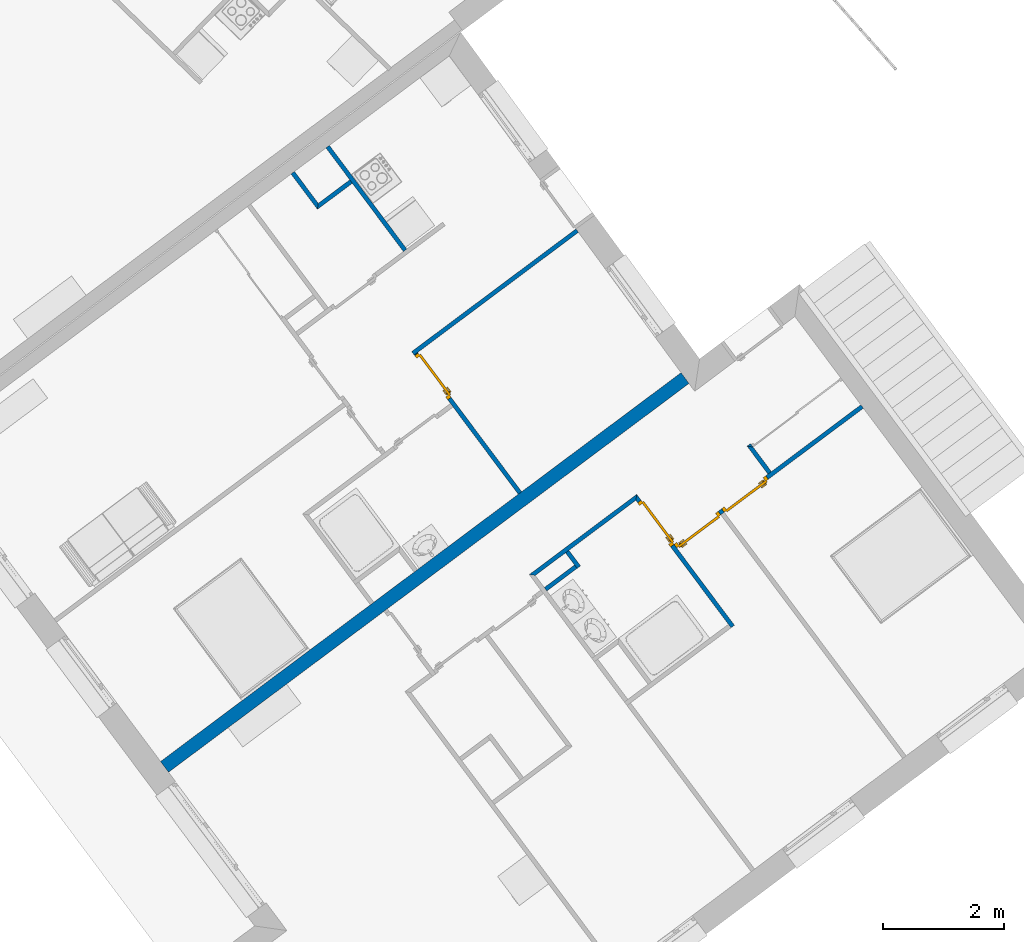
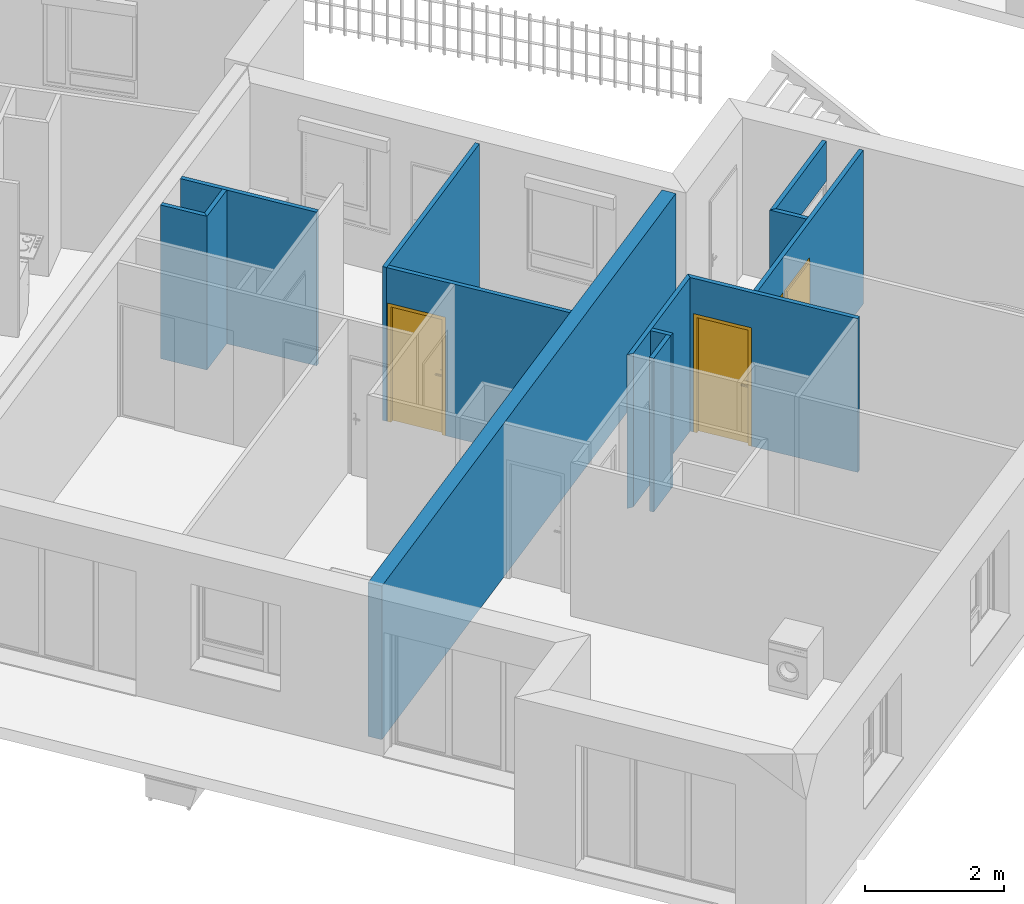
# One storey, part 10 of 195: 13 walls, 4 doors, 5 openings.
"""IFC2X3 building model written with IfcOpenShell, lengths in metres."""

from ifc_helpers import new_model, entity, si_unit, converted_unit, derived_unit, money_unit, direction, frame, origin_with_axes, origin_2d_with_axis, place, context, subcontext, project, spatial, polyline, rectangle, outline, extrude, faceted_brep, source, transform, mapped, material, layer, layer_set, layer_usage, type_object, element, fill, save


model = new_model("IFC2X3")

# Units and contexts
model_context = context("Model", 3, precision=1e-05, world=origin_with_axes(), true_north=direction((0.0, 1.0)))
body_context = subcontext(model_context, "Body", "Model", "MODEL_VIEW")
ifc_project = project(units=[si_unit("LENGTHUNIT", "METRE"), si_unit("AREAUNIT", "SQUARE_METRE"), si_unit("VOLUMEUNIT", "CUBIC_METRE"), converted_unit("PLANEANGLEUNIT", "DEGREE", entity("IfcPlaneAngleMeasure", 0.0174532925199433), si_unit("PLANEANGLEUNIT", "RADIAN"), dimensions=[0, 0, 0, 0, 0, 0, 0]), money_unit("CHF"), converted_unit("TIMEUNIT", "Year", entity("IfcTimeMeasure", 31557600.0), si_unit("TIMEUNIT", "SECOND"), dimensions=[0, 0, 1, 0, 0, 0, 0]), si_unit("MASSUNIT", "GRAM", prefix="KILO"), si_unit("THERMODYNAMICTEMPERATUREUNIT", "DEGREE_CELSIUS"), si_unit("LUMINOUSINTENSITYUNIT", "LUMEN"), si_unit("ENERGYUNIT", "JOULE", prefix="MEGA"), derived_unit("THERMALCONDUCTANCEUNIT", [(si_unit("POWERUNIT", "WATT"), 1), (si_unit("LENGTHUNIT", "METRE"), -1), (si_unit("THERMODYNAMICTEMPERATUREUNIT", "KELVIN"), -1)]), derived_unit("SPECIFICHEATCAPACITYUNIT", [(si_unit("ENERGYUNIT", "JOULE"), 1), (si_unit("MASSUNIT", "GRAM", prefix="KILO"), -1), (si_unit("THERMODYNAMICTEMPERATUREUNIT", "KELVIN"), -1)]), derived_unit("MASSDENSITYUNIT", [(si_unit("MASSUNIT", "GRAM", prefix="KILO"), 1), (si_unit("VOLUMEUNIT", "CUBIC_METRE"), -1)])], contexts=[model_context])

# Site, building, storey
site_placement = place(None, origin_with_axes())
site = spatial("IfcSite", under=ifc_project, at=site_placement, Name="Site", CompositionType="ELEMENT")
building_placement = place(site_placement, origin_with_axes())
building = spatial("IfcBuilding", under=site, at=building_placement, Name="Bâtiment", CompositionType="ELEMENT")
storey_placement = place(building_placement, origin_with_axes())
storey = spatial("IfcBuildingStorey", under=building, at=storey_placement, Name="rdc", CompositionType="ELEMENT", Elevation=0.0)

# Walls
ifc_material_1 = material(Name="Hachure solide 268963992")
ifc_layer_1 = layer(ifc_material_1, 0.07, ventilated="UNKNOWN")
ifc_layer_set_1 = layer_set([ifc_layer_1], Name="Cloison 70 0826278243")
ifc_layer_usage_1 = layer_usage(ifc_layer_set_1, "AXIS2", "NEGATIVE", 0.0)
wall_type_1 = type_object("IfcWallType", Name="Cloison 70 0826278243 70", PredefinedType="NOTDEFINED")
wall_1_placement = place(storey_placement, frame((9534.76554951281, -1072.023628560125, 57.7), z_axis=(0.0, 0.0, 1.0), x_axis=(0.5984471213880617, -0.8011623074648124, 0.0)))
element("IfcWallStandardCase", 1, at=wall_1_placement, inside=storey, type_object=wall_type_1, material=ifc_layer_usage_1, Name="Mur-149", context=body_context, shape_type="SweptSolid", body=[
    extrude(outline(polyline([(0.0, -0.06999999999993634), (0.7279079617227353, -0.07000000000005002), (0.6579079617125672, 0.0), (0.0, 0.0), (0.0, -0.06999999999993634)])), origin_with_axes(), (0.0, 0.0, 1.0), 2.7),
])
ifc_layer_usage_2 = layer_usage(ifc_layer_set_1, "AXIS2", "NEGATIVE", 0.0)
wall_2_placement = place(storey_placement, frame((9539.757479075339, -1072.80087057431, 57.7), z_axis=(0.0, 0.0, 1.0), x_axis=(-0.8011623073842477, -0.5984471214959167, 0.0)))
element("IfcWallStandardCase", 2, at=wall_2_placement, inside=storey, type_object=wall_type_1, material=ifc_layer_usage_2, Name="Mur-149", context=body_context, shape_type="SweptSolid", body=[
    extrude(outline(polyline([(0.3793022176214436, -0.06999999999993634), (3.763144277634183, -0.06999999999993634), (3.763144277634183, 0.0), (0.3800199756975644, 0.0), (0.3793022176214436, -0.06999999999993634)])), origin_with_axes(), (0.0, 0.0, 1.0), 2.7),
])
ifc_layer_usage_3 = layer_usage(ifc_layer_set_1, "AXIS2", "NEGATIVE", 0.0)
wall_3_placement = place(storey_placement, frame((9535.341654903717, -1071.593293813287, 57.7), z_axis=(0.0, 0.0, 1.0), x_axis=(0.5984464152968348, -0.8011628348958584, 0.0)))
element("IfcWallStandardCase", 3, at=wall_3_placement, inside=storey, type_object=wall_type_1, material=ifc_layer_usage_3, Name="Mur-149", context=body_context, shape_type="SweptSolid", body=[
    extrude(outline(polyline([(0.0, -0.07000000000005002), (2.135506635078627, -0.07000000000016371), (2.135506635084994, 0.0), (0.0, 0.0), (0.0, -0.07000000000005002)])), origin_with_axes(), (0.0, 0.0, 1.0), 2.7),
])

# Wall, opening
ifc_layer_usage_4 = layer_usage(ifc_layer_set_1, "AXIS2", "NEGATIVE", 0.0)
wall_4_placement = place(storey_placement, frame((9542.236059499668, -1076.557805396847, 57.7), z_axis=(0.0, 0.0, 1.0), x_axis=(0.8011628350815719, 0.5984464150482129, 0.0)))
wall_4 = element("IfcWallStandardCase", 4, at=wall_4_placement, inside=storey, type_object=wall_type_1, material=ifc_layer_usage_4, Name="Mur-149", context=body_context, shape_type="SweptSolid", body=[
    extrude(outline(polyline([(0.0700000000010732, -0.07000000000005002), (1.913437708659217, -0.07000000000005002), (1.913437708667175, 0.0), (0.0, 0.0), (0.0700000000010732, -0.07000000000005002)])), origin_with_axes(), (0.0, 0.0, 1.0), 2.7),
])
opening_1_placement = place(wall_4_placement, frame((0.9917188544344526, 0.0, 0.0), z_axis=(0.0, 0.0, 1.0), x_axis=(1.0, 0.0, 0.0)))
element("IfcOpeningElement", 5, at=opening_1_placement, cuts=wall_4, Name="Por-344", context=body_context, shape_type="SweptSolid", body=[
    extrude(rectangle(XDim=1.843437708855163, YDim=2.0, at=origin_2d_with_axis()), frame((0.0, -0.07000000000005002, 1.0), z_axis=(0.0, 1.0, 0.0), x_axis=(1.0, 0.0, 0.0)), (0.0, 0.0, -1.0), 0.07),
    extrude(rectangle(XDim=1.843437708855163, YDim=2.0, at=origin_2d_with_axis()), frame((0.0, -0.07000000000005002, 1.0), z_axis=(0.0, -1.0, 0.0), x_axis=(1.0, 0.0, 0.0)), (0.0, 0.0, -1.0), 0.07),
])

# Wall, openings, doors
ifc_layer_usage_5 = layer_usage(ifc_layer_set_1, "AXIS2", "NEGATIVE", 0.0)
wall_5_placement = place(storey_placement, frame((9540.97390720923, -1078.220409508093, 57.7), z_axis=(0.0, 0.0, 1.0), x_axis=(0.8011628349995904, 0.5984464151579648, 0.0)))
wall_5 = element("IfcWallStandardCase", 6, at=wall_5_placement, inside=storey, type_object=wall_type_1, material=ifc_layer_usage_5, Name="Mur-149", context=body_context, shape_type="SweptSolid", body=[
    extrude(outline(polyline([(0.06999999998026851, -0.07000000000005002), (3.919606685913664, -0.07000000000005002), (3.919606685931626, 0.0), (0.06999999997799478, 0.0), (0.06999999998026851, -0.07000000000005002)])), origin_with_axes(), (0.0, 0.0, 1.0), 2.7),
])
opening_2_placement = place(wall_5_placement, frame((0.5249999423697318, 0.0, 0.0), z_axis=(0.0, 0.0, 1.0), x_axis=(1.0, 0.0, 0.0)))
opening_2 = element("IfcOpeningElement", 7, at=opening_2_placement, cuts=wall_5, Name="Por-308", context=body_context, shape_type="SweptSolid", body=[
    extrude(rectangle(XDim=0.9099999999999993, YDim=2.079999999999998, at=origin_2d_with_axis()), frame((0.0, 0.07000000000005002, 1.039999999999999), z_axis=(0.0, 1.0, 0.0), x_axis=(1.0, 0.0, 0.0)), (0.0, 0.0, -1.0), 0.14),
])
opening_3_placement = place(wall_5_placement, frame((1.504999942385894, 0.0, 0.0), z_axis=(0.0, 0.0, 1.0), x_axis=(1.0, 0.0, 0.0)))
opening_3 = element("IfcOpeningElement", 8, at=opening_3_placement, cuts=wall_5, Name="Por-308", context=body_context, shape_type="SweptSolid", body=[
    extrude(rectangle(XDim=0.9099999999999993, YDim=2.079999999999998, at=origin_2d_with_axis()), frame((0.0, 0.07000000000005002, 1.039999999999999), z_axis=(0.0, -1.0, 0.0), x_axis=(-1.0, 0.0, 0.0)), (0.0, 0.0, 1.0), 0.14),
])
door_style = type_object("IfcDoorStyle", Name="Porte_1v", ConstructionType="NOTDEFINED", OperationType="NOTDEFINED", ParameterTakesPrecedence=False, Sizeable=False)
shared_shape_1 = source(origin_with_axes(), body_context, "Body", "Brep", [
    faceted_brep([(0.455, 0.0, 0.0), (0.415, 0.0, 0.0), (0.415, 0.0, 2.04), (-0.415, 0.0, 2.04), (-0.415, 0.0, 0.0), (-0.455, 0.0, 0.0), (-0.455, 0.0, 2.08), (0.455, 0.0, 2.08), (0.455, -0.07, 0.0), (0.4, -0.07, 0.0), (0.4, -0.015, 0.0), (0.415, -0.015, 0.0), (0.415, -0.015, 2.04), (-0.415, -0.015, 2.04), (-0.415, -0.015, 0.0), (-0.4, -0.015, 0.0), (-0.4, -0.07, 0.0), (-0.455, -0.07, 0.0), (-0.455, -0.07, 2.08), (0.455, -0.07, 2.08), (-0.4, -0.07, 2.025), (0.4, -0.07, 2.025), (0.4, -0.015, 2.025), (-0.4, -0.015, 2.025)], [[[0, 1, 2, 3, 4, 5, 6, 7]], [[0, 8, 9, 10, 11, 1]], [[1, 11, 12, 2]], [[2, 12, 13, 3]], [[3, 13, 14, 4]], [[5, 4, 14, 15, 16, 17]], [[18, 6, 5, 17]], [[19, 7, 6, 18]], [[8, 0, 7, 19]], [[9, 8, 19, 18, 17, 16, 20, 21]], [[10, 9, 21, 22]], [[11, 10, 22, 23, 15, 14, 13, 12]], [[23, 20, 16, 15]], [[22, 21, 20, 23]]]),
    faceted_brep([(-0.35, -0.015, 0.9), (-0.39, -0.015, 0.9), (-0.39, -0.015, 1.1), (-0.35, -0.015, 1.1), (-0.35, -0.025, 0.9), (-0.39, -0.025, 0.9), (-0.39, -0.025, 1.1), (-0.35, -0.025, 1.1)], [[[0, 1, 2, 3]], [[1, 0, 4, 5]], [[2, 1, 5, 6]], [[3, 2, 6, 7]], [[0, 3, 7, 4]], [[5, 4, 7, 6]]]),
    faceted_brep([(-0.28, -0.025, 1.0), (-0.38, -0.025, 1.0), (-0.38, -0.025, 1.02), (-0.28, -0.025, 1.02), (-0.28, -0.045, 1.0), (-0.38, -0.045, 1.0), (-0.38, -0.045, 1.02), (-0.28, -0.045, 1.02)], [[[0, 1, 2, 3]], [[1, 0, 4, 5]], [[2, 1, 5, 6]], [[3, 2, 6, 7]], [[0, 3, 7, 4]], [[5, 4, 7, 6]]]),
    faceted_brep([(-0.35, 0.035, 0.9), (-0.39, 0.035, 0.9), (-0.39, 0.035, 1.1), (-0.35, 0.035, 1.1), (-0.35, 0.025, 0.9), (-0.39, 0.025, 0.9), (-0.39, 0.025, 1.1), (-0.35, 0.025, 1.1)], [[[0, 1, 2, 3]], [[1, 0, 4, 5]], [[2, 1, 5, 6]], [[3, 2, 6, 7]], [[0, 3, 7, 4]], [[5, 4, 7, 6]]]),
    faceted_brep([(-0.28, 0.05500000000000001, 1.0), (-0.38, 0.05500000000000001, 1.0), (-0.38, 0.05500000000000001, 1.02), (-0.28, 0.05500000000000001, 1.02), (-0.28, 0.035, 1.0), (-0.38, 0.035, 1.0), (-0.38, 0.035, 1.02), (-0.28, 0.035, 1.02)], [[[0, 1, 2, 3]], [[1, 0, 4, 5]], [[2, 1, 5, 6]], [[3, 2, 6, 7]], [[0, 3, 7, 4]], [[5, 4, 7, 6]]]),
    faceted_brep([(-0.415, 0.025, 0.0), (0.415, 0.025, 0.0), (0.415, -0.015, 0.0), (-0.415, -0.015, 0.0), (-0.415, 0.025, 2.04), (0.415, 0.025, 2.04), (0.415, -0.015, 2.04), (-0.415, -0.015, 2.04)], [[[0, 1, 2, 3]], [[0, 4, 5, 1]], [[1, 5, 6, 2]], [[3, 2, 6, 7]], [[4, 0, 3, 7]], [[5, 4, 7, 6]]]),
])
door_1_placement = place(opening_3_placement, frame((0.4150000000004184, 0.0, 0.0), z_axis=(0.0, 0.0, 1.0), x_axis=(-1.0, 0.0, 0.0)))
door_1 = element("IfcDoor", 9, at=door_1_placement, inside=storey, type_object=door_style, Name="Por-308", OverallHeight=2.04, OverallWidth=0.83, context=body_context, shape_type="MappedRepresentation", body=[
    mapped(shared_shape_1, transform((0.4150000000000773, 0.06999999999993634, 0.0))),
])
fill(opening_3, door_1)
shared_shape_2 = source(origin_with_axes(), body_context, "Body", "Brep", [
    faceted_brep([(-0.455, 0.0, 0.0), (-0.455, 0.0, 2.08), (0.455, 0.0, 2.08), (0.455, 0.0, 0.0), (0.415, 0.0, 0.0), (0.415, 0.0, 2.04), (-0.415, 0.0, 2.04), (-0.415, 0.0, 0.0), (-0.455, -0.07, 0.0), (-0.455, -0.07, 2.08), (0.455, -0.07, 2.08), (0.455, -0.07, 0.0), (0.4, -0.07, 0.0), (0.4, -0.015, 0.0), (0.415, -0.015, 0.0), (0.415, -0.015, 2.04), (-0.415, -0.015, 2.04), (-0.415, -0.015, 0.0), (-0.4, -0.015, 0.0), (-0.4, -0.07, 0.0), (-0.4, -0.07, 2.025), (0.4, -0.07, 2.025), (0.4, -0.015, 2.025), (-0.4, -0.015, 2.025)], [[[0, 1, 2, 3, 4, 5, 6, 7]], [[8, 9, 1, 0]], [[9, 10, 2, 1]], [[10, 11, 3, 2]], [[3, 11, 12, 13, 14, 4]], [[5, 4, 14, 15]], [[6, 5, 15, 16]], [[7, 6, 16, 17]], [[0, 7, 17, 18, 19, 8]], [[19, 20, 21, 12, 11, 10, 9, 8]], [[22, 13, 12, 21]], [[17, 16, 15, 14, 13, 22, 23, 18]], [[18, 23, 20, 19]], [[23, 22, 21, 20]]]),
    faceted_brep([(0.35, -0.015, 0.9), (0.35, -0.015, 1.1), (0.39, -0.015, 1.1), (0.39, -0.015, 0.9), (0.35, -0.025, 0.9), (0.35, -0.025, 1.1), (0.39, -0.025, 1.1), (0.39, -0.025, 0.9)], [[[0, 1, 2, 3]], [[0, 4, 5, 1]], [[1, 5, 6, 2]], [[2, 6, 7, 3]], [[3, 7, 4, 0]], [[7, 6, 5, 4]]]),
    faceted_brep([(0.28, -0.025, 1.0), (0.28, -0.025, 1.02), (0.38, -0.025, 1.02), (0.38, -0.025, 1.0), (0.28, -0.045, 1.0), (0.28, -0.045, 1.02), (0.38, -0.045, 1.02), (0.38, -0.045, 1.0)], [[[0, 1, 2, 3]], [[0, 4, 5, 1]], [[1, 5, 6, 2]], [[2, 6, 7, 3]], [[3, 7, 4, 0]], [[7, 6, 5, 4]]]),
    faceted_brep([(0.35, 0.035, 0.9), (0.35, 0.035, 1.1), (0.39, 0.035, 1.1), (0.39, 0.035, 0.9), (0.35, 0.025, 0.9), (0.35, 0.025, 1.1), (0.39, 0.025, 1.1), (0.39, 0.025, 0.9)], [[[0, 1, 2, 3]], [[0, 4, 5, 1]], [[1, 5, 6, 2]], [[2, 6, 7, 3]], [[3, 7, 4, 0]], [[7, 6, 5, 4]]]),
    faceted_brep([(0.28, 0.05500000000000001, 1.0), (0.28, 0.05500000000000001, 1.02), (0.38, 0.05500000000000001, 1.02), (0.38, 0.05500000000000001, 1.0), (0.28, 0.035, 1.0), (0.28, 0.035, 1.02), (0.38, 0.035, 1.02), (0.38, 0.035, 1.0)], [[[0, 1, 2, 3]], [[0, 4, 5, 1]], [[1, 5, 6, 2]], [[2, 6, 7, 3]], [[3, 7, 4, 0]], [[7, 6, 5, 4]]]),
    faceted_brep([(0.415, 0.025, 0.0), (0.415, -0.015, 0.0), (-0.415, -0.015, 0.0), (-0.415, 0.025, 0.0), (0.415, 0.025, 2.04), (0.415, -0.015, 2.04), (-0.415, -0.015, 2.04), (-0.415, 0.025, 2.04)], [[[0, 1, 2, 3]], [[4, 5, 1, 0]], [[1, 5, 6, 2]], [[3, 2, 6, 7]], [[0, 3, 7, 4]], [[7, 6, 5, 4]]]),
])
door_2_placement = place(opening_2_placement, frame((0.4150000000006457, 0.0, 0.0), z_axis=(0.0, 0.0, 1.0), x_axis=(-1.0, 0.0, 0.0)))
door_2 = element("IfcDoor", 10, at=door_2_placement, inside=storey, type_object=door_style, Name="Por-308", OverallHeight=2.04, OverallWidth=0.83, context=body_context, shape_type="MappedRepresentation", body=[
    mapped(shared_shape_2, transform((0.4150000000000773, 0.06999999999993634, 0.0))),
])
fill(opening_2, door_2)

# Walls
ifc_layer_usage_6 = layer_usage(ifc_layer_set_1, "AXIS2", "NEGATIVE", 0.0)
wall_6_placement = place(storey_placement, frame((9538.697378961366, -1078.635281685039, 57.7), z_axis=(0.0, 0.0, 1.0), x_axis=(0.8011628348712, 0.5984464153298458, 0.0)))
element("IfcWallStandardCase", 11, at=wall_6_placement, inside=storey, type_object=wall_type_1, material=ifc_layer_usage_6, Name="Mur-149", context=body_context, shape_type="SweptSolid", body=[
    extrude(outline(polyline([(0.0, -0.06999999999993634), (2.072148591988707, -0.07000000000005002), (2.142148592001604, 0.0), (-0.07000000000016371, 0.0), (0.0, -0.06999999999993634)])), origin_with_axes(), (0.0, 0.0, 1.0), 2.7),
])
ifc_layer_usage_7 = layer_usage(ifc_layer_set_1, "AXIS2", "POSITIVE", 0.0)
wall_7_placement = place(storey_placement, frame((9542.236059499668, -1076.557805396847, 57.7), z_axis=(0.0, 0.0, 1.0), x_axis=(0.5984464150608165, -0.8011628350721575, 0.0)))
element("IfcWallStandardCase", 12, at=wall_7_placement, inside=storey, type_object=wall_type_1, material=ifc_layer_usage_7, Name="Mur-149", context=body_context, shape_type="SweptSolid", body=[
    extrude(outline(polyline([(0.0, 0.0), (0.5766861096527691, 0.0), (0.5766861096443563, 0.07000000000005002), (0.07000000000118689, 0.07000000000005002), (0.0, 0.0)])), origin_with_axes(), (0.0, 0.0, 1.0), 2.7),
])
ifc_layer_usage_8 = layer_usage(ifc_layer_set_1, "AXIS2", "NEGATIVE", 0.0)
wall_8_placement = place(storey_placement, frame((9538.888881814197, -1078.891653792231, 57.7), z_axis=(0.0, 0.0, 1.0), x_axis=(0.8011628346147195, 0.598446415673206, 0.0)))
element("IfcWallStandardCase", 13, at=wall_8_placement, inside=storey, type_object=wall_type_1, material=ifc_layer_usage_8, Name="Mur-149", context=body_context, shape_type="SweptSolid", body=[
    extrude(outline(polyline([(0.0, -0.07000000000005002), (0.6235017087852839, -0.07000000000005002), (0.623501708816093, 0.0), (0.0, 0.0), (0.0, -0.07000000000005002)])), origin_with_axes(), (0.0, 0.0, 1.0), 2.7),
])
ifc_layer_usage_9 = layer_usage(ifc_layer_set_1, "AXIS2", "NEGATIVE", 0.0)
wall_9_placement = place(storey_placement, frame((9539.25298675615, -1078.22025807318, 57.7), z_axis=(0.0, 0.0, 1.0), x_axis=(0.5984464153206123, -0.8011628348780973, 0.0)))
element("IfcWallStandardCase", 14, at=wall_9_placement, inside=storey, type_object=wall_type_1, material=ifc_layer_usage_9, Name="Mur-149", context=body_context, shape_type="SweptSolid", body=[
    extrude(outline(polyline([(0.07000000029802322, -0.06999999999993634), (0.3899999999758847, -0.07000000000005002), (0.3899999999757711, 0.0), (0.07000000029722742, 0.0), (0.07000000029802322, -0.06999999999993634)])), origin_with_axes(), (0.0, 0.0, 1.0), 2.7),
])

# Wall, opening, door
ifc_layer_usage_10 = layer_usage(ifc_layer_set_1, "AXIS2", "POSITIVE", 0.0)
wall_10_placement = place(storey_placement, frame((9540.357507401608, -1077.395211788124, 57.7), z_axis=(0.0, 0.0, 1.0), x_axis=(0.5984464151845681, -0.8011628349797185, 0.0)))
wall_10 = element("IfcWallStandardCase", 15, at=wall_10_placement, inside=storey, type_object=wall_type_1, material=ifc_layer_usage_10, Name="Mur-149", context=body_context, shape_type="SweptSolid", body=[
    extrude(outline(polyline([(0.07000000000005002, 0.0), (2.695267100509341, 0.0), (2.695267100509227, 0.06999999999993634), (0.0, 0.07000000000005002), (0.07000000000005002, 0.0)])), origin_with_axes(), (0.0, 0.0, 1.0), 2.7),
])
opening_4_placement = place(wall_10_placement, frame((0.5749999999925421, 0.0, 0.0), z_axis=(0.0, 0.0, 1.0), x_axis=(1.0, 0.0, 0.0)))
opening_4 = element("IfcOpeningElement", 16, at=opening_4_placement, cuts=wall_10, Name="Por-308", context=body_context, shape_type="SweptSolid", body=[
    extrude(rectangle(XDim=0.9099999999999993, YDim=2.079999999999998, at=origin_2d_with_axis()), frame((0.0, -0.07000000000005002, 1.039999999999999), z_axis=(0.0, -1.0, 0.0), x_axis=(-1.0, 0.0, 0.0)), (0.0, 0.0, -1.0), 0.14),
])
door_3_placement = place(opening_4_placement, frame((-0.4149999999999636, 0.0, 0.0), z_axis=(0.0, 0.0, 1.0), x_axis=(1.0, 0.0, 0.0)))
door_3 = element("IfcDoor", 17, at=door_3_placement, inside=storey, type_object=door_style, Name="Por-308", OverallHeight=2.04, OverallWidth=0.83, context=body_context, shape_type="MappedRepresentation", body=[
    mapped(shared_shape_2, transform((0.4150000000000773, 0.07000000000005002, 0.0))),
])
fill(opening_4, door_3)

ifc_layer_usage_11 = layer_usage(ifc_layer_set_1, "AXIS2", "NEGATIVE", 0.0)
wall_11_placement = place(storey_placement, frame((9536.798671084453, -1075.011022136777, 57.7), z_axis=(0.0, 0.0, 1.0), x_axis=(0.5984464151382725, -0.8011628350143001, 0.0)))
wall_11 = element("IfcWallStandardCase", 18, at=wall_11_placement, inside=storey, type_object=wall_type_1, material=ifc_layer_usage_11, Name="Mur-149", context=body_context, shape_type="SweptSolid", body=[
    extrude(outline(polyline([(6.146649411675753e-08, -0.07000000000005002), (2.869896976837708, -0.07000000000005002), (2.869896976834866, 0.0), (-2.499973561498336e-10, 0.0), (6.146649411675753e-08, -0.07000000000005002)])), origin_with_axes(), (0.0, 0.0, 1.0), 2.7),
])
opening_5_placement = place(wall_11_placement, frame((0.4678461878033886, 0.0, 0.0), z_axis=(0.0, 0.0, 1.0), x_axis=(1.0, 0.0, 0.0)))
opening_5 = element("IfcOpeningElement", 19, at=opening_5_placement, cuts=wall_11, Name="Por-308", context=body_context, shape_type="SweptSolid", body=[
    extrude(rectangle(XDim=0.9099999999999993, YDim=2.079999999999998, at=origin_2d_with_axis()), frame((0.0, -0.07000000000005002, 1.039999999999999), z_axis=(0.0, -1.0, 0.0), x_axis=(-1.0, 0.0, 0.0)), (0.0, 0.0, -1.0), 0.14),
])
door_4_placement = place(opening_5_placement, frame((-0.4150000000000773, 0.0, 0.0), z_axis=(0.0, 0.0, 1.0), x_axis=(1.0, 0.0, 0.0)))
door_4 = element("IfcDoor", 20, at=door_4_placement, inside=storey, type_object=door_style, Name="Por-308", OverallHeight=2.04, OverallWidth=0.83, context=body_context, shape_type="MappedRepresentation", body=[
    mapped(shared_shape_2, transform((0.4149999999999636, 0.0, 0.0))),
])
fill(opening_5, door_4)

# Walls
ifc_layer_usage_12 = layer_usage(ifc_layer_set_1, "AXIS2", "NEGATIVE", 0.0)
wall_12_placement = place(storey_placement, frame((9535.777268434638, -1072.176466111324, 57.7), z_axis=(0.0, 0.0, 1.0), x_axis=(-0.8011623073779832, -0.5984471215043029, 0.0)))
element("IfcWallStandardCase", 21, at=wall_12_placement, inside=storey, type_object=wall_type_1, material=ifc_layer_usage_12, Name="Mur-149", context=body_context, shape_type="SweptSolid", body=[
    extrude(outline(polyline([(0.06999993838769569, -0.07000000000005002), (0.719085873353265, -0.07000000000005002), (0.7890858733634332, 0.0), (0.07000000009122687, 0.0), (0.06999993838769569, -0.07000000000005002)])), origin_with_axes(), (0.0, 0.0, 1.0), 2.7),
])
ifc_material_2 = material(Name="Parpaing 312445824")
ifc_layer_2 = layer(ifc_material_2, 0.22, ventilated="UNKNOWN")
ifc_layer_set_2 = layer_set([ifc_layer_2], Name="Beton  22 0836643198")
ifc_layer_usage_13 = layer_usage(ifc_layer_set_2, "AXIS2", "POSITIVE", 0.0)
wall_type_2 = type_object("IfcWallType", Name="Beton  22 0836643198 220", PredefinedType="NOTDEFINED")
wall_13_placement = place(storey_placement, frame((9541.451386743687, -1075.117736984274, 57.7), z_axis=(0.0, 0.0, 1.0), x_axis=(-0.8011628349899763, -0.5984464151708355, 0.0)))
element("IfcWallStandardCase", 22, at=wall_13_placement, inside=storey, type_object=wall_type_2, material=ifc_layer_usage_13, Name="Mur-105", context=body_context, shape_type="SweptSolid", body=[
    extrude(outline(polyline([(0.3800199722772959, 0.0), (11.10284737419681, 0.0), (11.10284737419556, 0.2200000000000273), (0.3822755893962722, 0.2200000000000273), (0.3800199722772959, 0.0)])), origin_with_axes(), (0.0, 0.0, 1.0), 2.7),
])

save(model, "model.ifc")
